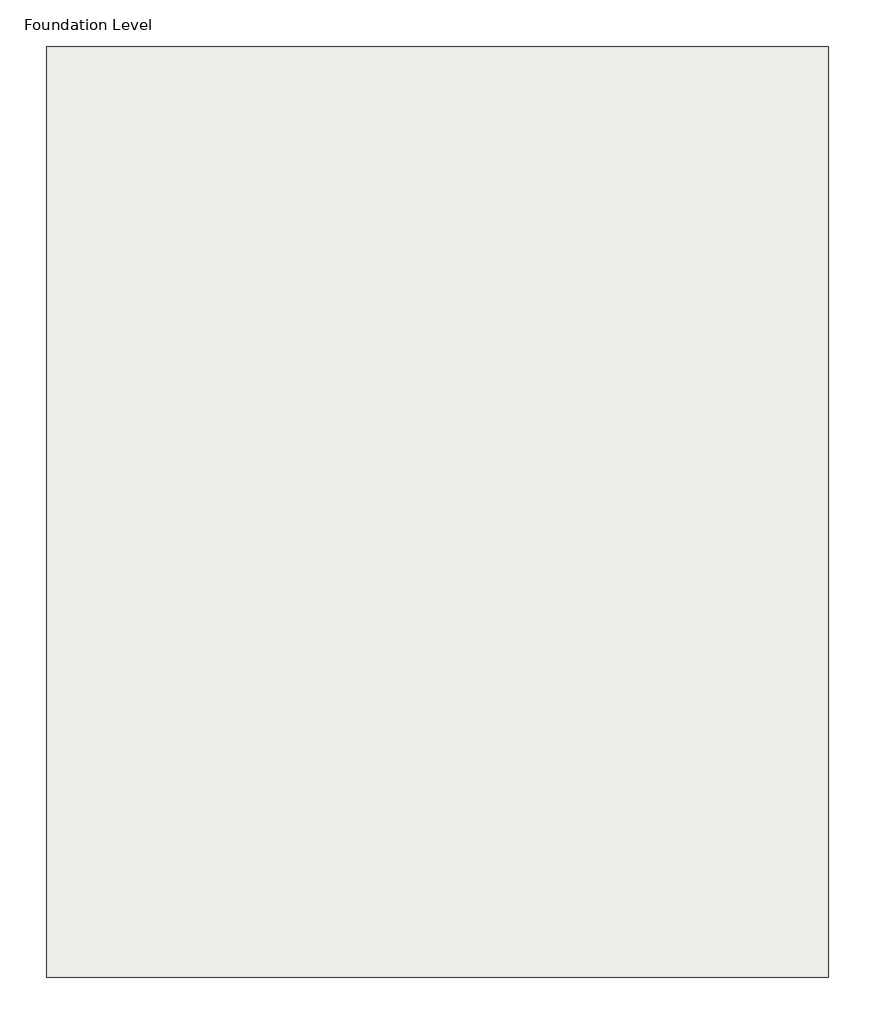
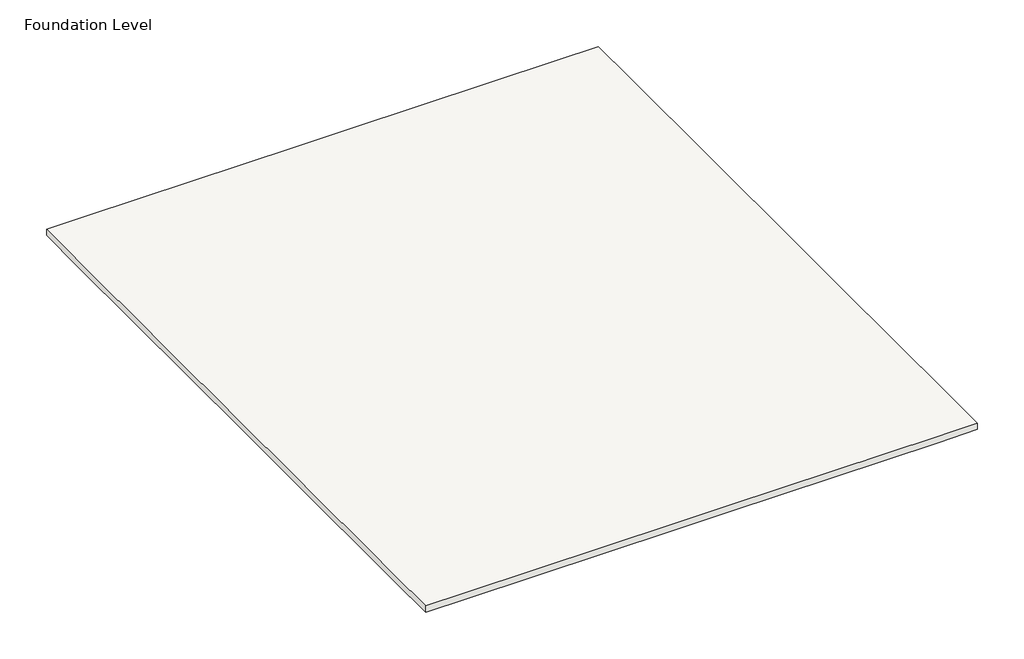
# One storey: 1 slab.
"""IFC4 building model written with IfcOpenShell, lengths in millimetres."""

from ifc_helpers import new_model, si_unit, origin, place, context, project, spatial, faceted_brep, element, save

model = new_model("IFC4")

# Units and contexts
model_context = context("Model", 3, world=origin())
ifc_project = project(units=[si_unit("LENGTHUNIT", "METRE", prefix="MILLI")], contexts=[model_context])

# Site, building, storey
site = spatial("IfcSite", under=ifc_project)
building = spatial("IfcBuilding", under=site)
storey = spatial("IfcBuildingStorey", under=building, Name="Foundation Level", Elevation=-1828.8)

# Slab
placement = place(None, origin())
element("IfcSlab", 1, ObjectType="6\" Foundation Slab", at=placement, inside=storey, context=model_context, shape_type="Brep", body=[
    faceted_brep([(-26107.6148109, 13532.249478, -1981.2), (-26107.6148109, 12313.049478, -1981.2), (-26107.6148109, 5607.449478, -1981.2), (-26107.6148109, 3778.649478, -1981.2), (-26107.6148109, -488.550522, -1981.2), (-26107.6148109, -1707.750522, -1981.2), (-27022.0148109, -1707.750522, -1981.2), (-31898.8148109, -1707.750522, -1981.2), (-33118.0148109, -1707.750522, -1981.2), (-37994.8148109, -1707.750522, -1981.2), (-38909.2148109, -1707.750522, -1981.2), (-38909.2148109, -488.550522, -1981.2), (-38909.2148109, 3778.649478, -1981.2), (-38909.2148109, 5607.449478, -1981.2), (-38909.2148109, 12313.049478, -1981.2), (-38909.2148109, 13532.249478, -1981.2), (-37994.8148109, 13532.249478, -1981.2), (-33118.0148109, 13532.249478, -1981.2), (-31898.8148109, 13532.249478, -1981.2), (-27022.0148109, 13532.249478, -1981.2), (-26107.6148109, 13532.249478, -1828.8), (-27022.0148109, 13532.249478, -1828.8), (-31898.8148109, 13532.249478, -1828.8), (-33118.0148109, 13532.249478, -1828.8), (-37994.8148109, 13532.249478, -1828.8), (-38909.2148109, 13532.249478, -1828.8), (-38909.2148109, 12313.049478, -1828.8), (-38909.2148109, 5607.449478, -1828.8), (-38909.2148109, 3778.649478, -1828.8), (-38909.2148109, -488.550522, -1828.8), (-38909.2148109, -1707.750522, -1828.8), (-37994.8148109, -1707.750522, -1828.8), (-33118.0148109, -1707.750522, -1828.8), (-31898.8148109, -1707.750522, -1828.8), (-27022.0148109, -1707.750522, -1828.8), (-26107.6148109, -1707.750522, -1828.8), (-26107.6148109, -488.550522, -1828.8), (-26107.6148109, 3778.649478, -1828.8), (-26107.6148109, 5607.449478, -1828.8), (-26107.6148109, 12313.049478, -1828.8)], [[[0, 1, 2, 3, 4, 5, 6, 7, 8, 9, 10, 11, 12, 13, 14, 15, 16, 17, 18, 19]], [[20, 21, 22, 23, 24, 25, 26, 27, 28, 29, 30, 31, 32, 33, 34, 35, 36, 37, 38, 39]], [[5, 4, 3, 2, 1, 0, 20, 39, 38, 37, 36, 35]], [[10, 9, 8, 7, 6, 5, 35, 34, 33, 32, 31, 30]], [[15, 14, 13, 12, 11, 10, 30, 29, 28, 27, 26, 25]], [[0, 19, 18, 17, 16, 15, 25, 24, 23, 22, 21, 20]]]),
])

save(model, "model.ifc")
